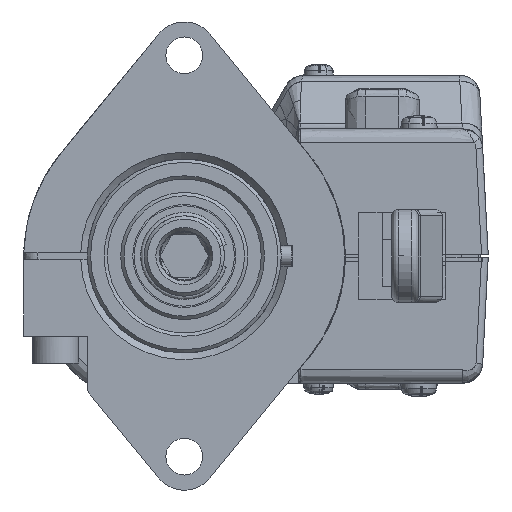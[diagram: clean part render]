
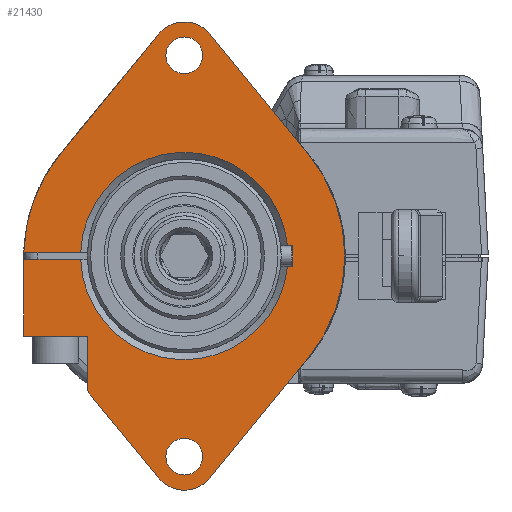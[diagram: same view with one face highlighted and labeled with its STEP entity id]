
A CAD part, left-side view. The second image highlights one B-rep face of the part: STEP entity #21430.
In plain terms, the highlighted planar face has unit normal (-1, 0, 0).
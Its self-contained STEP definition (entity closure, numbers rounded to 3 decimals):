
#20140=CARTESIAN_POINT('',(227.283,421.563,-15.2));
#20141=VERTEX_POINT('',#20140);
#20148=CARTESIAN_POINT('',(227.283,436.267,-33.167));
#20149=VERTEX_POINT('',#20148);
#20150=CARTESIAN_POINT('',(227.283,436.267,-33.167));
#20151=DIRECTION('',(0.0,-0.633,0.774));
#20152=VECTOR('',#20151,23.216);
#20153=LINE('',#20150,#20152);
#20154=EDGE_CURVE('',#20149,#20141,#20153,.T.);
#20179=CARTESIAN_POINT('',(227.283,421.563,15.2));
#20180=VERTEX_POINT('',#20179);
#20187=CARTESIAN_POINT('',(227.283,440.136,0.));
#20188=DIRECTION('',(-1.0,0.,0.));
#20189=DIRECTION('',(0.,-0.774,-0.633));
#20190=AXIS2_PLACEMENT_3D('',#20187,#20188,#20189);
#20191=CIRCLE('',#20190,24.);
#20192=EDGE_CURVE('',#20141,#20180,#20191,.T.);
#20211=CARTESIAN_POINT('',(227.283,436.267,33.167));
#20212=VERTEX_POINT('',#20211);
#20219=CARTESIAN_POINT('',(227.283,421.563,15.2));
#20220=DIRECTION('',(0.0,0.633,0.774));
#20221=VECTOR('',#20220,23.216);
#20222=LINE('',#20219,#20221);
#20223=EDGE_CURVE('',#20180,#20212,#20222,.T.);
#20243=CARTESIAN_POINT('',(227.283,444.006,33.167));
#20244=VERTEX_POINT('',#20243);
#20251=CARTESIAN_POINT('',(227.283,440.136,30.));
#20252=DIRECTION('',(-1.0,0.,0.));
#20253=DIRECTION('',(0.,-0.774,0.633));
#20254=AXIS2_PLACEMENT_3D('',#20251,#20252,#20253);
#20255=CIRCLE('',#20254,5.);
#20256=EDGE_CURVE('',#20212,#20244,#20255,.T.);
#20301=CARTESIAN_POINT('',(227.283,458.709,15.2));
#20302=VERTEX_POINT('',#20301);
#20309=CARTESIAN_POINT('',(227.283,444.006,33.167));
#20310=DIRECTION('',(0.0,0.633,-0.774));
#20311=VECTOR('',#20310,23.216);
#20312=LINE('',#20309,#20311);
#20313=EDGE_CURVE('',#20244,#20302,#20312,.T.);
#20333=CARTESIAN_POINT('',(227.283,464.131,0.5));
#20334=VERTEX_POINT('',#20333);
#20341=CARTESIAN_POINT('',(227.283,440.136,0.));
#20342=DIRECTION('',(-1.0,0.,0.));
#20343=DIRECTION('',(0.,0.774,0.633));
#20344=AXIS2_PLACEMENT_3D('',#20341,#20342,#20343);
#20345=CIRCLE('',#20344,24.);
#20346=EDGE_CURVE('',#20302,#20334,#20345,.T.);
#20396=CARTESIAN_POINT('',(227.283,423.936,-1.5));
#20397=VERTEX_POINT('',#20396);
#20404=CARTESIAN_POINT('',(227.283,423.936,1.5));
#20405=VERTEX_POINT('',#20404);
#20406=CARTESIAN_POINT('',(227.283,423.936,1.5));
#20407=DIRECTION('',(0.0,0.0,-1.0));
#20408=VECTOR('',#20407,3.);
#20409=LINE('',#20406,#20408);
#20410=EDGE_CURVE('',#20405,#20397,#20409,.T.);
#20436=CARTESIAN_POINT('',(227.283,464.136,-12.));
#20437=VERTEX_POINT('',#20436);
#20444=CARTESIAN_POINT('',(227.283,464.136,-0.5));
#20445=VERTEX_POINT('',#20444);
#20446=CARTESIAN_POINT('',(227.283,464.136,-0.5));
#20447=DIRECTION('',(0.0,0.0,-1.0));
#20448=VECTOR('',#20447,11.5);
#20449=LINE('',#20446,#20448);
#20450=EDGE_CURVE('',#20445,#20437,#20449,.T.);
#20474=CARTESIAN_POINT('',(227.283,454.636,-12.));
#20475=VERTEX_POINT('',#20474);
#20482=CARTESIAN_POINT('',(227.283,464.136,-12.));
#20483=DIRECTION('',(0.0,-1.0,0.0));
#20484=VECTOR('',#20483,9.5);
#20485=LINE('',#20482,#20484);
#20486=EDGE_CURVE('',#20437,#20475,#20485,.T.);
#20525=CARTESIAN_POINT('',(227.283,454.636,-20.177));
#20526=VERTEX_POINT('',#20525);
#20533=CARTESIAN_POINT('',(227.283,454.636,-12.));
#20534=DIRECTION('',(0.0,0.0,-1.0));
#20535=VECTOR('',#20534,8.177);
#20536=LINE('',#20533,#20535);
#20537=EDGE_CURVE('',#20475,#20526,#20536,.T.);
#20556=CARTESIAN_POINT('',(227.283,444.006,-33.167));
#20557=VERTEX_POINT('',#20556);
#20564=CARTESIAN_POINT('',(227.283,454.636,-20.177));
#20565=DIRECTION('',(0.0,-0.633,-0.774));
#20566=VECTOR('',#20565,16.785);
#20567=LINE('',#20564,#20566);
#20568=EDGE_CURVE('',#20526,#20557,#20567,.T.);
#20587=CARTESIAN_POINT('',(227.283,440.136,-30.));
#20588=DIRECTION('',(-1.0,0.,0.));
#20589=DIRECTION('',(0.,0.774,-0.633));
#20590=AXIS2_PLACEMENT_3D('',#20587,#20588,#20589);
#20591=CIRCLE('',#20590,5.);
#20592=EDGE_CURVE('',#20557,#20149,#20591,.T.);
#20692=CARTESIAN_POINT('',(227.283,442.886,30.));
#20693=VERTEX_POINT('',#20692);
#20700=CARTESIAN_POINT('',(227.283,437.386,30.));
#20701=VERTEX_POINT('',#20700);
#20702=CARTESIAN_POINT('',(227.283,440.136,30.));
#20703=DIRECTION('',(-1.0,0.,0.));
#20704=DIRECTION('',(0.,1.0,0.0));
#20705=AXIS2_PLACEMENT_3D('',#20702,#20703,#20704);
#20706=CIRCLE('',#20705,2.75);
#20707=EDGE_CURVE('',#20693,#20701,#20706,.T.);
#20709=CARTESIAN_POINT('',(227.283,440.136,30.));
#20710=DIRECTION('',(-1.0,0.,0.));
#20711=DIRECTION('',(0.,1.0,0.0));
#20712=AXIS2_PLACEMENT_3D('',#20709,#20710,#20711);
#20713=CIRCLE('',#20712,2.75);
#20714=EDGE_CURVE('',#20701,#20693,#20713,.T.);
#20743=CARTESIAN_POINT('',(227.283,442.886,-30.));
#20744=VERTEX_POINT('',#20743);
#20751=CARTESIAN_POINT('',(227.283,437.386,-30.));
#20752=VERTEX_POINT('',#20751);
#20753=CARTESIAN_POINT('',(227.283,440.136,-30.));
#20754=DIRECTION('',(-1.0,0.,0.));
#20755=DIRECTION('',(0.,1.0,0.0));
#20756=AXIS2_PLACEMENT_3D('',#20753,#20754,#20755);
#20757=CIRCLE('',#20756,2.75);
#20758=EDGE_CURVE('',#20744,#20752,#20757,.T.);
#20760=CARTESIAN_POINT('',(227.283,440.136,-30.));
#20761=DIRECTION('',(-1.0,0.,0.));
#20762=DIRECTION('',(0.,1.0,0.0));
#20763=AXIS2_PLACEMENT_3D('',#20760,#20761,#20762);
#20764=CIRCLE('',#20763,2.75);
#20765=EDGE_CURVE('',#20752,#20744,#20764,.T.);
#20785=CARTESIAN_POINT('',(227.283,455.628,-0.5));
#20786=VERTEX_POINT('',#20785);
#20787=CARTESIAN_POINT('',(227.283,455.628,-0.5));
#20788=DIRECTION('',(0.0,1.0,0.0));
#20789=VECTOR('',#20788,8.508);
#20790=LINE('',#20787,#20789);
#20791=EDGE_CURVE('',#20786,#20445,#20790,.T.);
#20947=CARTESIAN_POINT('',(227.283,424.709,-1.5));
#20948=VERTEX_POINT('',#20947);
#20955=CARTESIAN_POINT('',(227.283,423.936,-1.5));
#20956=DIRECTION('',(0.0,1.0,0.0));
#20957=VECTOR('',#20956,0.773);
#20958=LINE('',#20955,#20957);
#20959=EDGE_CURVE('',#20397,#20948,#20958,.T.);
#20972=CARTESIAN_POINT('',(227.283,424.709,1.5));
#20973=VERTEX_POINT('',#20972);
#21003=CARTESIAN_POINT('',(227.283,424.709,1.5));
#21004=DIRECTION('',(0.0,-1.0,0.0));
#21005=VECTOR('',#21004,0.773);
#21006=LINE('',#21003,#21005);
#21007=EDGE_CURVE('',#20973,#20405,#21006,.T.);
#21099=CARTESIAN_POINT('',(227.283,455.628,0.5));
#21100=VERTEX_POINT('',#21099);
#21101=CARTESIAN_POINT('',(227.283,440.136,0.));
#21102=DIRECTION('',(1.0,0.,0.));
#21103=DIRECTION('',(0.,1.0,0.0));
#21104=AXIS2_PLACEMENT_3D('',#21101,#21102,#21103);
#21105=CIRCLE('',#21104,15.5);
#21106=EDGE_CURVE('',#21100,#20973,#21105,.T.);
#21146=CARTESIAN_POINT('',(227.283,464.131,0.5));
#21147=DIRECTION('',(0.0,-1.0,0.0));
#21148=VECTOR('',#21147,8.503);
#21149=LINE('',#21146,#21148);
#21150=EDGE_CURVE('',#20334,#21100,#21149,.T.);
#21340=CARTESIAN_POINT('',(227.283,440.136,0.));
#21341=DIRECTION('',(1.0,0.,0.));
#21342=DIRECTION('',(0.,0.999,-0.034));
#21343=AXIS2_PLACEMENT_3D('',#21340,#21341,#21342);
#21344=CIRCLE('',#21343,15.5);
#21345=EDGE_CURVE('',#20948,#20786,#21344,.T.);
#21397=CARTESIAN_POINT('',(227.283,411.336,42.));
#21398=DIRECTION('',(-1.0,0.0,0.0));
#21399=DIRECTION('',(0.0,1.0,0.0));
#21400=AXIS2_PLACEMENT_3D('',#21397,#21398,#21399);
#21401=PLANE('',#21400);
#21402=ORIENTED_EDGE('',*,*,#20154,.T.);
#21403=ORIENTED_EDGE('',*,*,#20192,.T.);
#21404=ORIENTED_EDGE('',*,*,#20223,.T.);
#21405=ORIENTED_EDGE('',*,*,#20256,.T.);
#21406=ORIENTED_EDGE('',*,*,#20313,.T.);
#21407=ORIENTED_EDGE('',*,*,#20346,.T.);
#21408=ORIENTED_EDGE('',*,*,#21150,.T.);
#21409=ORIENTED_EDGE('',*,*,#21106,.T.);
#21410=ORIENTED_EDGE('',*,*,#21007,.T.);
#21411=ORIENTED_EDGE('',*,*,#20410,.T.);
#21412=ORIENTED_EDGE('',*,*,#20959,.T.);
#21413=ORIENTED_EDGE('',*,*,#21345,.T.);
#21414=ORIENTED_EDGE('',*,*,#20791,.T.);
#21415=ORIENTED_EDGE('',*,*,#20450,.T.);
#21416=ORIENTED_EDGE('',*,*,#20486,.T.);
#21417=ORIENTED_EDGE('',*,*,#20537,.T.);
#21418=ORIENTED_EDGE('',*,*,#20568,.T.);
#21419=ORIENTED_EDGE('',*,*,#20592,.T.);
#21420=EDGE_LOOP('',(#21402,#21403,#21404,#21405,#21406,#21407,#21408,#21409,#21410,#21411,#21412,#21413,#21414,#21415,#21416,#21417,#21418,#21419));
#21421=FACE_OUTER_BOUND('',#21420,.T.);
#21422=ORIENTED_EDGE('',*,*,#20714,.F.);
#21423=ORIENTED_EDGE('',*,*,#20707,.F.);
#21424=EDGE_LOOP('',(#21422,#21423));
#21425=FACE_BOUND('',#21424,.T.);
#21426=ORIENTED_EDGE('',*,*,#20765,.F.);
#21427=ORIENTED_EDGE('',*,*,#20758,.F.);
#21428=EDGE_LOOP('',(#21426,#21427));
#21429=FACE_BOUND('',#21428,.T.);
#21430=ADVANCED_FACE('',(#21421,#21425,#21429),#21401,.T.);
